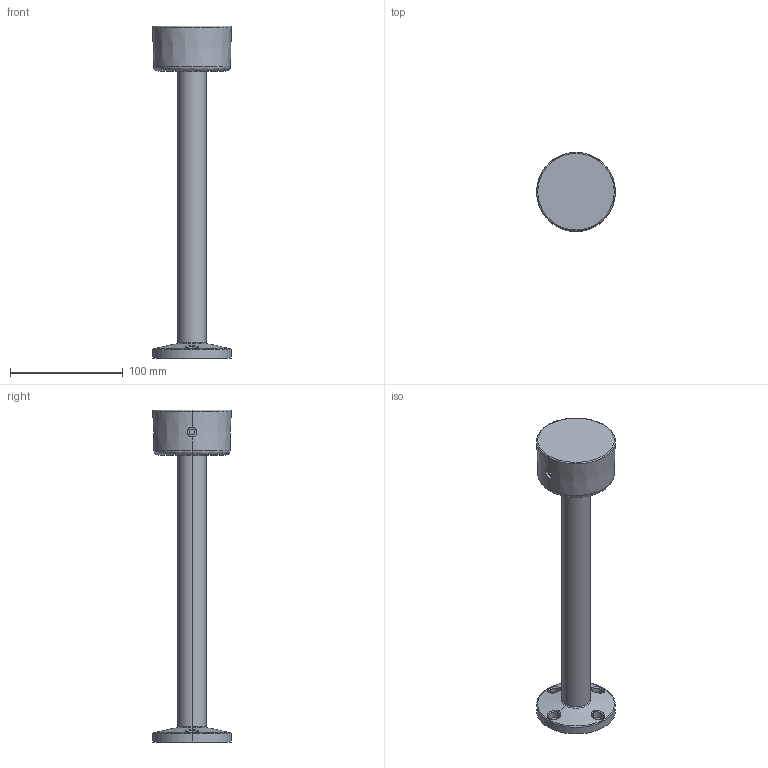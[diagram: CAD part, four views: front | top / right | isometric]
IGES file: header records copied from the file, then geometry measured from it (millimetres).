
Start section: IGES file generated by C3D Converter 1.6 translator by C3D Labs., translator version IGESOUT-5.1.
Global section: file name: HC:\Users\沓膼\OneDrive\Desktop\欙鵳醆TL70\鐕謽僗\扻豵鵨255.igs; preprocessor: 1.0; author: 沓膼,7; organization: Hunknown; date: -17760826:041808; units: millimetre
Bounding box: 70 x 70 x 295 mm (x, y, z)
Volume: 189512.6 mm3; surface area: 70603.9 mm2
Topology: 1 solids, 1 shells, 159 faces, 433 edges, 282 vertices
Faces by surface type: bspline 87, revolution 72
